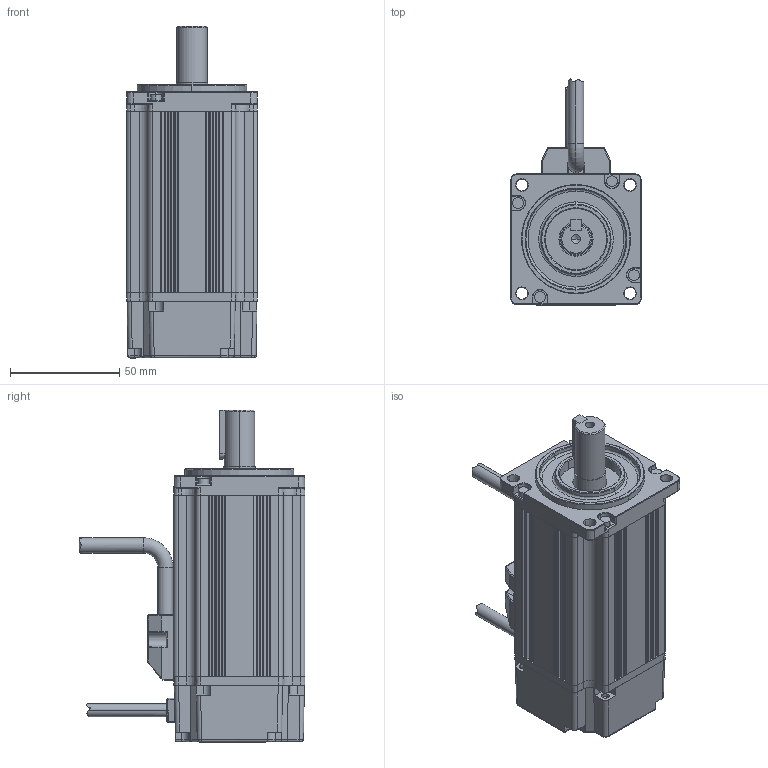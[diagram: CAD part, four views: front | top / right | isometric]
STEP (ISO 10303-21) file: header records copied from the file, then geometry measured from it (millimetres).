
FILE_DESCRIPTION (( 'STEP AP203' ), '1' );
FILE_NAME ('z60mm_400W_final_asm.STEP', '2010-03-12T05:44:12', ( '' ), ( '' ), 'SwSTEP 2.0', 'SolidWorks 2011', '' );
FILE_SCHEMA (( 'CONFIG_CONTROL_DESIGN' ));
Length unit declared in the file: millimetre
Products named in the file (1): z60mm_400W_final_asm
Bounding box: 60 x 103.36 x 152 mm (x, y, z)
Volume: 116742.4 mm3; surface area: 91507.7 mm2
Topology: 12 solids, 12 shells, 933 faces, 2391 edges, 1486 vertices
Faces by surface type: cylinder 396, plane 267, cone 161, bspline 103, torus 6
Entity records: 31068 total; most frequent: CARTESIAN_POINT 8506, DIRECTION 4778, ORIENTED_EDGE 4726, EDGE_CURVE 2363, AXIS2_PLACEMENT_3D 1791, VERTEX_POINT 1486, LINE 1196, VECTOR 1196
